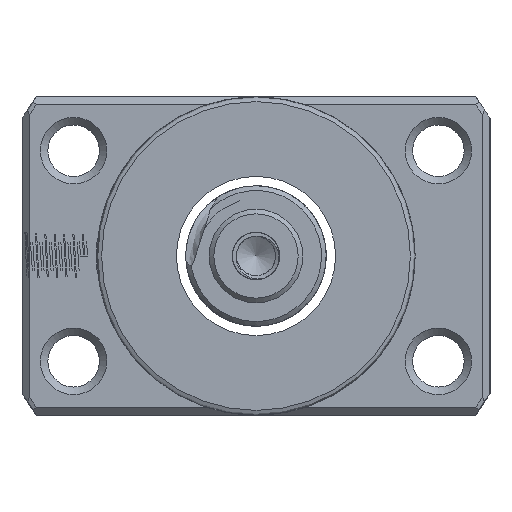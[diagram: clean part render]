
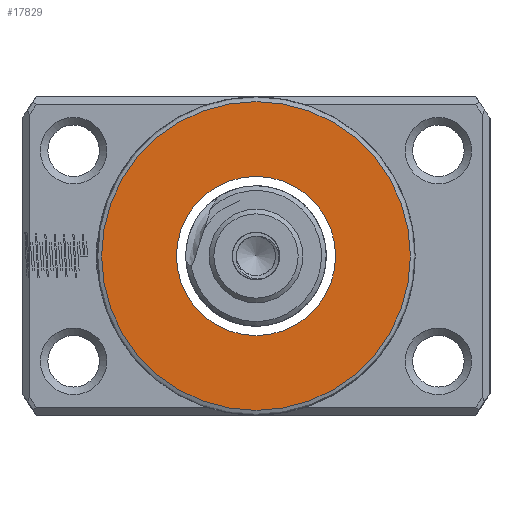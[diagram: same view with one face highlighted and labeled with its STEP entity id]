
A CAD part, left-side view. The second image highlights one B-rep face of the part: STEP entity #17829.
In plain terms, the highlighted planar face has unit normal (-1, 0, 0).
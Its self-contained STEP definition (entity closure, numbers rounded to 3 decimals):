
#1845 = CIRCLE ( 'NONE', #13625, 16.5 ) ;
#2175 = EDGE_LOOP ( 'NONE', ( #15255 ) ) ;
#2399 = FACE_BOUND ( 'NONE', #2175, .T. ) ;
#3271 = CARTESIAN_POINT ( 'NONE',  ( -53.324, 0., 16.5 ) ) ;
#3468 = CARTESIAN_POINT ( 'NONE',  ( -53.324, 0., 0. ) ) ;
#4461 = CARTESIAN_POINT ( 'NONE',  ( -53.324, 0., 0. ) ) ;
#5248 = DIRECTION ( 'NONE',  ( -1., 0., 0. ) ) ;
#5671 = PLANE ( 'NONE',  #14316 ) ;
#6333 = EDGE_CURVE ( 'NONE', #12756, #12756, #18793, .T. ) ;
#7457 = FACE_OUTER_BOUND ( 'NONE', #19674, .T. ) ;
#10418 = DIRECTION ( 'NONE',  ( -1., 0., 0. ) ) ;
#12756 = VERTEX_POINT ( 'NONE', #14349 ) ;
#12781 = DIRECTION ( 'NONE',  ( 0., 0., 1. ) ) ;
#13625 = AXIS2_PLACEMENT_3D ( 'NONE', #4461, #14270, #12781 ) ;
#13891 = CARTESIAN_POINT ( 'NONE',  ( -53.324, 8.5, 0. ) ) ;
#14270 = DIRECTION ( 'NONE',  ( -1., 0., 0. ) ) ;
#14316 = AXIS2_PLACEMENT_3D ( 'NONE', #13891, #10418, #15579 ) ;
#14349 = CARTESIAN_POINT ( 'NONE',  ( -53.324, 0., 8.5 ) ) ;
#14742 = AXIS2_PLACEMENT_3D ( 'NONE', #3468, #5248, #16341 ) ;
#15255 = ORIENTED_EDGE ( 'NONE', *, *, #6333, .F. ) ;
#15579 = DIRECTION ( 'NONE',  ( 0., 0., 1. ) ) ;
#16341 = DIRECTION ( 'NONE',  ( 0., 0., 1. ) ) ;
#16710 = ORIENTED_EDGE ( 'NONE', *, *, #19401, .T. ) ;
#17829 = ADVANCED_FACE ( 'NONE', ( #7457, #2399 ), #5671, .T. ) ;
#18038 = VERTEX_POINT ( 'NONE', #3271 ) ;
#18793 = CIRCLE ( 'NONE', #14742, 8.5 ) ;
#19401 = EDGE_CURVE ( 'NONE', #18038, #18038, #1845, .T. ) ;
#19674 = EDGE_LOOP ( 'NONE', ( #16710 ) ) ;
